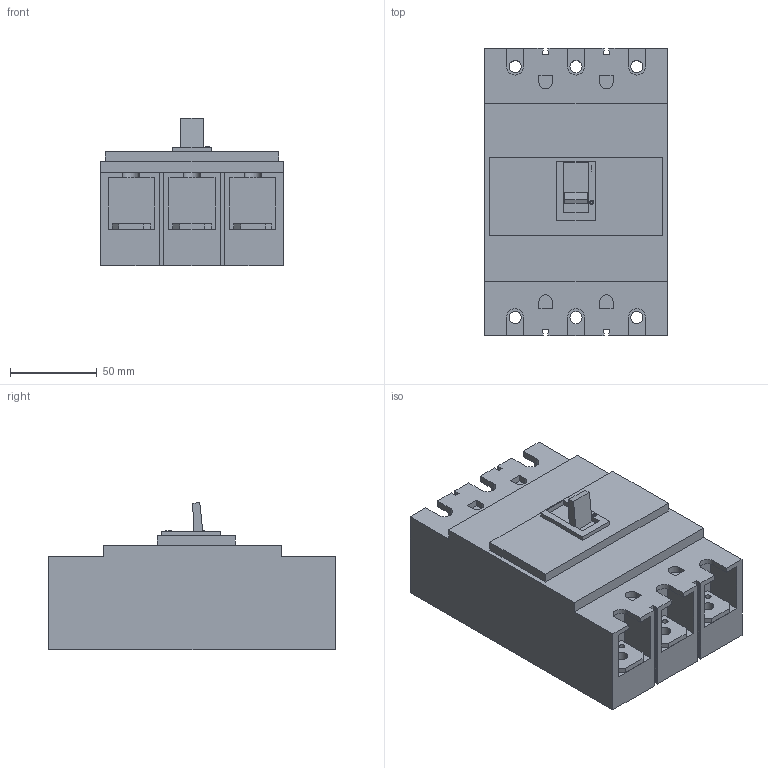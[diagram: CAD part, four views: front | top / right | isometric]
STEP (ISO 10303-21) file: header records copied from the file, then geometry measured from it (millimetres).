
FILE_DESCRIPTION (( 'STEP AP214' ), '1' );
FILE_NAME ('OptiMat E250.STEP', '2023-11-03T08:25:28', ( '' ), ( '' ), 'SwSTEP 2.0', 'SolidWorks 2018', '' );
FILE_SCHEMA (( 'AUTOMOTIVE_DESIGN' ));
Length unit declared in the file: millimetre
Products named in the file (1): OptiMat E250
Bounding box: 105 x 165 x 84.71 mm (x, y, z)
Volume: 917813.1 mm3; surface area: 90600.7 mm2
Topology: 1 solids, 1 shells, 213 faces, 600 edges, 400 vertices
Faces by surface type: plane 163, cylinder 50
Entity records: 6940 total; most frequent: CARTESIAN_POINT 1214, ORIENTED_EDGE 1200, DIRECTION 1128, EDGE_CURVE 600, VECTOR 500, LINE 500, VERTEX_POINT 400, AXIS2_PLACEMENT_3D 314
